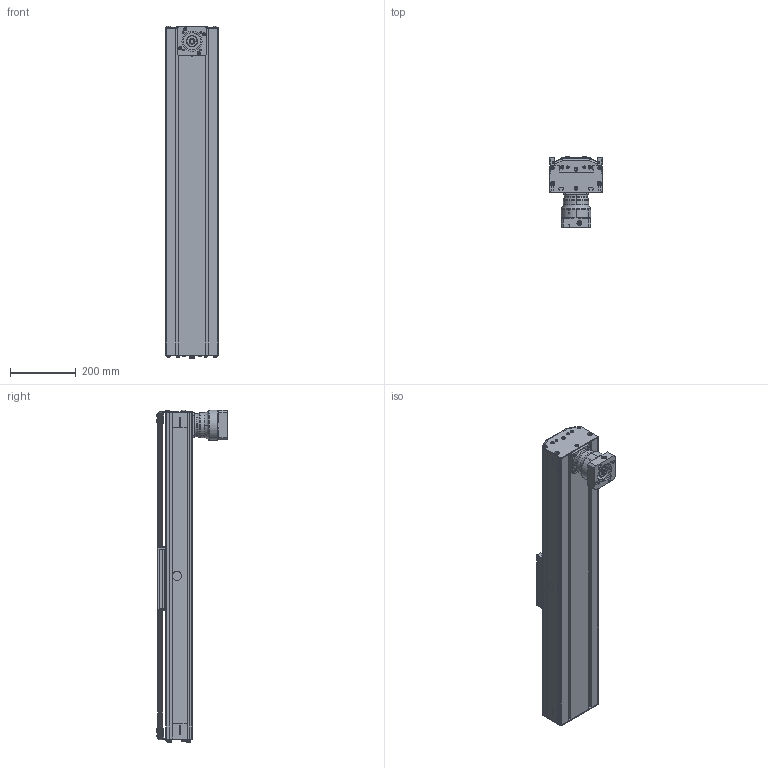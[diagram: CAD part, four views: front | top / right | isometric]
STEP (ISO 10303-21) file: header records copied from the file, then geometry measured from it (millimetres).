
FILE_DESCRIPTION (( 'STEP AP214' ), '1' );
FILE_NAME ('DSZPVI-160.STEP', '2016-01-15T08:07:03', ( 'admin' ), ( '' ), 'SwSTEP 2.0', 'SolidWorks 2015', '' );
FILE_SCHEMA (( 'AUTOMOTIVE_DESIGN' ));
Length unit declared in the file: millimetre
Products named in the file (10): Schlitten^Positioniersystem DSZPVI 160; Linsenschraube ISO 7380 - M8 x 16 --- 16C10.9_Linsenschraube ISO 7380 - M8 x 16 --- 16C10.9; Kopie von Abstreifkappe D 160P - 4mm - POM^Schlitten_Positioniersystem DSZPVI 160; Schlitten160P^Schlitten_Positioniersystem DSZPVI 160; Führung^Positioniersystem DSZPVI 160; Kopie von Getriebe-SP075X^Führung_Positioniersystem DSZPVI 160; Lagerstückplatte DSZPVI 160 - Spannseite; Lagerstückplatte DSZPVI 160; Kopie von Führung DSZPVI160-ED^Führung_Positioniersystem DSZPVI 160; DSZPVI-160
Assembly tree (13 placements, depth 3):
  DSZPVI-160
    Führung^Positioniersystem DSZPVI 160
      Kopie von Führung DSZPVI160-ED^Führung_Positioniersystem DSZPVI 160
      Lagerstückplatte DSZPVI 160
      Lagerstückplatte DSZPVI 160 - Spannseite
      Kopie von Getriebe-SP075X^Führung_Positioniersystem DSZPVI 160
    Schlitten^Positioniersystem DSZPVI 160
      Schlitten160P^Schlitten_Positioniersystem DSZPVI 160
      Kopie von Abstreifkappe D 160P - 4mm - POM^Schlitten_Positioniersystem DSZPVI 160  x2
      Linsenschraube ISO 7380 - M8 x 16 --- 16C10.9_Linsenschraube ISO 7380 - M8 x 16 --- 16C10.9  x4
Bounding box: 160 x 216.3 x 1011.3 mm (x, y, z)
Volume: 10793040.7 mm3; surface area: 1313410.2 mm2
Topology: 9 solids, 78 shells, 1762 faces, 4722 edges, 2977 vertices
Faces by surface type: plane 866, cylinder 465, cone 199, bspline 150, sphere 54, torus 28
Full cylindrical faces by diameter (mm): 4.1 x7
Entity records: 74176 total; most frequent: CARTESIAN_POINT 18014, DIRECTION 8477, ORIENTED_EDGE 8256, EDGE_CURVE 4350, AXIS2_PLACEMENT_3D 2971, VERTEX_POINT 2812, LINE 2535, VECTOR 2535
